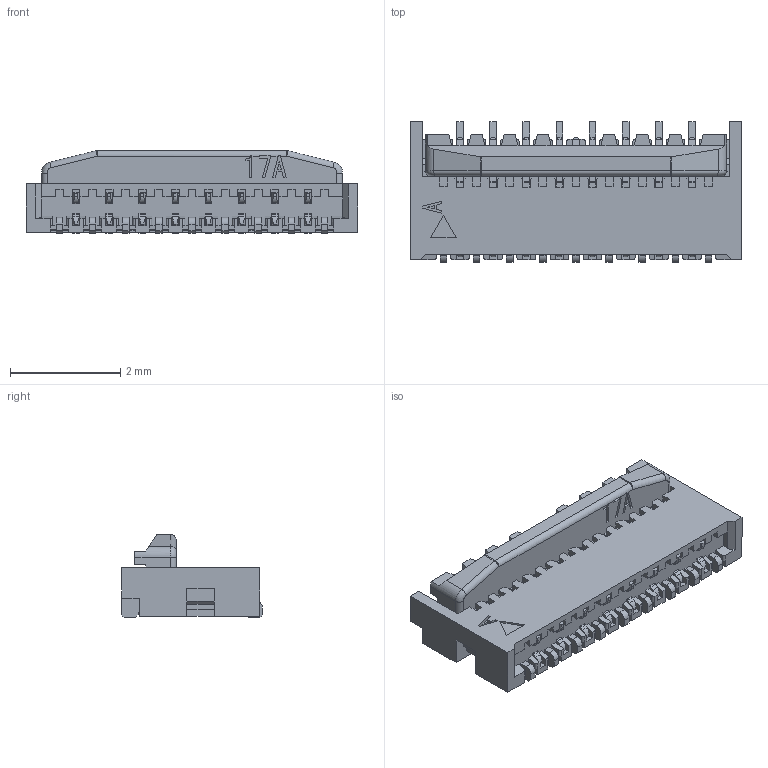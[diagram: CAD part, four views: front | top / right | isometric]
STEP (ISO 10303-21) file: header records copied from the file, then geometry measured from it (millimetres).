
FILE_DESCRIPTION (( 'STEP AP203' ), '1' );
FILE_NAME ('20527-017ExxxC ACT OPEN STEP R5 ALL.STEP', '2017-04-25T01:42:35', ( '' ), ( '' ), 'SwSTEP 2.0', 'SolidWorks 2014', '' );
FILE_SCHEMA (( 'CONFIG_CONTROL_DESIGN' ));
Length unit declared in the file: millimetre
Products named in the file (1): 20527-017ExxxC ACT OPEN STEP R5 ALL
Bounding box: 6 x 2.55 x 1.5 mm (x, y, z)
Volume: 11.7 mm3; surface area: 82.2 mm2
Topology: 1 solids, 1 shells, 1626 faces, 4889 edges, 3224 vertices
Faces by surface type: plane 1342, cylinder 279, sphere 2, torus 2, bspline 1
Entity records: 54548 total; most frequent: CARTESIAN_POINT 10144, ORIENTED_EDGE 9774, DIRECTION 8583, EDGE_CURVE 4887, LINE 4229, VECTOR 4229, VERTEX_POINT 3224, AXIS2_PLACEMENT_3D 2177
